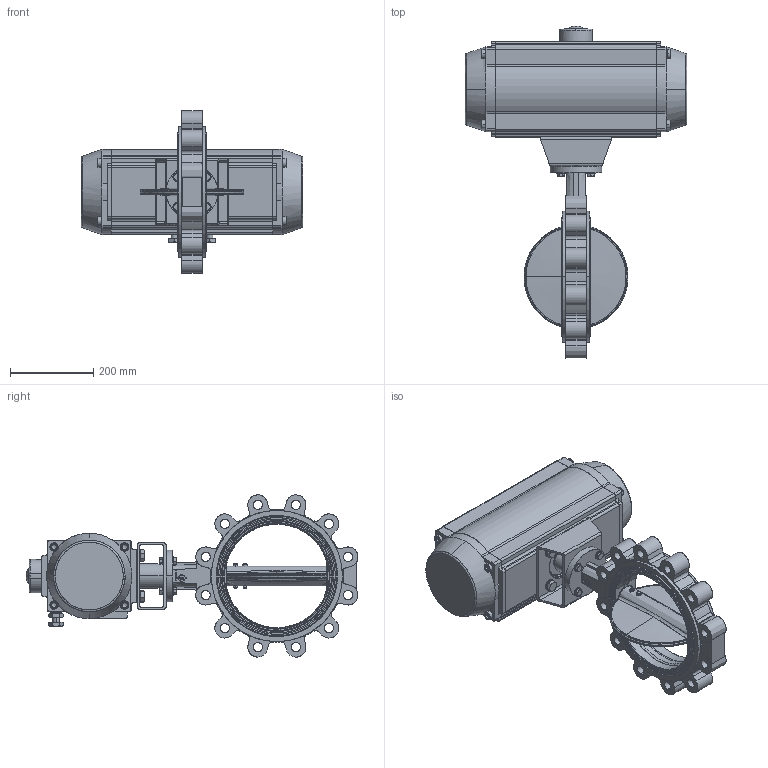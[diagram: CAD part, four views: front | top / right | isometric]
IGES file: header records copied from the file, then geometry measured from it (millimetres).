
Start section: SolidWorks IGES file using analytic representation for surfaces
Global section: file name: H:\BE BIBLIOTHEQUE 3D\BE SECTION 01 - ROBINETS A PAPILLON_VANNES PASSAGE DIRECTE\VP - Vanne Papillon\VPG\VPG4XXX-N07\LUG\DN250 PN16\VPG464X-N07XX0250.igs; native system: SolidWorks 2020; preprocessor: SolidWorks 2020; author: k.gigout; date: 220607.082817; units: millimetre
Bounding box: 534 x 799.91 x 390.89 mm (x, y, z)
Surface area: 1177602.7 mm2 (no closed solid volume)
Topology: 0 solids, 0 shells, 866 faces, 24049 edges, 24049 vertices
Faces by surface type: bspline 453, revolution 413
